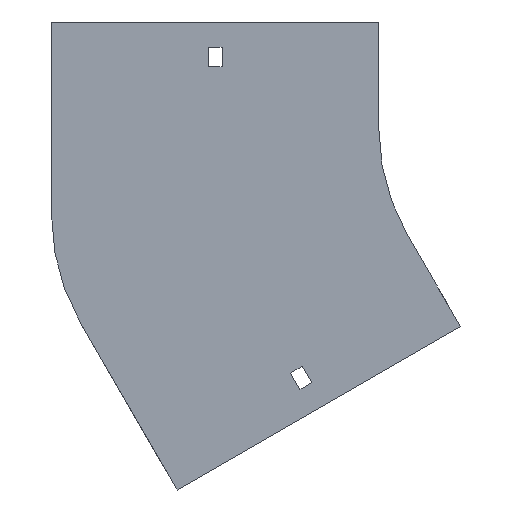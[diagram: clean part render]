
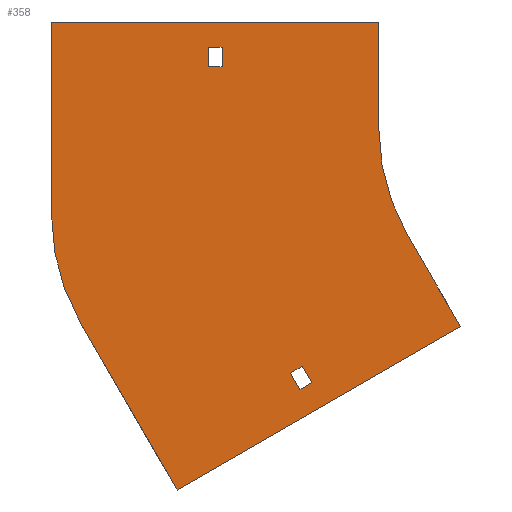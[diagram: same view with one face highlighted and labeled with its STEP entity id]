
A CAD part, front view. The second image highlights one B-rep face of the part: STEP entity #358.
In plain terms, the highlighted planar face has unit normal (0, -1, 0).
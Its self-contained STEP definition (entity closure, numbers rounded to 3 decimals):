
#4 = CARTESIAN_POINT ( 'NONE',  ( -173.75, 0., 38. ) ) ;
#8 = VERTEX_POINT ( 'NONE', #711 ) ;
#11 = VECTOR ( 'NONE', #1177, 1000. ) ;
#28 = DIRECTION ( 'NONE',  ( -0.5, 0., 0.866 ) ) ;
#64 = EDGE_LOOP ( 'NONE', ( #536, #72, #1519, #214 ) ) ;
#66 = EDGE_CURVE ( 'NONE', #8, #1122, #180, .T. ) ;
#72 = ORIENTED_EDGE ( 'NONE', *, *, #415, .F. ) ;
#73 = VERTEX_POINT ( 'NONE', #787 ) ;
#86 = EDGE_CURVE ( 'NONE', #1352, #877, #310, .T. ) ;
#174 = CARTESIAN_POINT ( 'NONE',  ( -254., 0., 50. ) ) ;
#175 = EDGE_CURVE ( 'NONE', #548, #515, #1762, .T. ) ;
#180 = LINE ( 'NONE', #1385, #1236 ) ;
#201 = AXIS2_PLACEMENT_3D ( 'NONE', #1595, #1276, #827 ) ;
#206 = VECTOR ( 'NONE', #1142, 1000. ) ;
#212 = EDGE_CURVE ( 'NONE', #1759, #1352, #540, .T. ) ;
#214 = ORIENTED_EDGE ( 'NONE', *, *, #1635, .F. ) ;
#216 = DIRECTION ( 'NONE',  ( 0., 0., 1. ) ) ;
#294 = ORIENTED_EDGE ( 'NONE', *, *, #66, .F. ) ;
#310 = LINE ( 'NONE', #492, #1832 ) ;
#328 = VECTOR ( 'NONE', #501, 1000. ) ;
#339 = DIRECTION ( 'NONE',  ( 0., 0., -1. ) ) ;
#357 = CARTESIAN_POINT ( 'NONE',  ( -180.25, 0., 29. ) ) ;
#358 = ADVANCED_FACE ( 'NONE', ( #758, #1457, #1315 ), #1782, .T. ) ;
#413 = ORIENTED_EDGE ( 'NONE', *, *, #86, .T. ) ;
#415 = EDGE_CURVE ( 'NONE', #733, #1906, #471, .T. ) ;
#419 = CARTESIAN_POINT ( 'NONE',  ( -254., 0., 50. ) ) ;
#425 = AXIS2_PLACEMENT_3D ( 'NONE', #1663, #1186, #1469 ) ;
#471 = LINE ( 'NONE', #1227, #1226 ) ;
#478 = DIRECTION ( 'NONE',  ( 0., 0., -1. ) ) ;
#492 = CARTESIAN_POINT ( 'NONE',  ( -173.75, 0., 29. ) ) ;
#498 = ORIENTED_EDGE ( 'NONE', *, *, #1868, .F. ) ;
#501 = DIRECTION ( 'NONE',  ( -0.866, 0., -0.5 ) ) ;
#515 = VERTEX_POINT ( 'NONE', #1114 ) ;
#532 = EDGE_CURVE ( 'NONE', #1780, #1851, #937, .T. ) ;
#536 = ORIENTED_EDGE ( 'NONE', *, *, #1179, .F. ) ;
#537 = CARTESIAN_POINT ( 'NONE',  ( -131.472, 0., -119.784 ) ) ;
#540 = LINE ( 'NONE', #1429, #206 ) ;
#548 = VERTEX_POINT ( 'NONE', #817 ) ;
#565 = VECTOR ( 'NONE', #216, 1000. ) ;
#580 = VERTEX_POINT ( 'NONE', #357 ) ;
#607 = AXIS2_PLACEMENT_3D ( 'NONE', #1921, #1336, #1910 ) ;
#613 = ORIENTED_EDGE ( 'NONE', *, *, #212, .T. ) ;
#614 = LINE ( 'NONE', #419, #1359 ) ;
#625 = LINE ( 'NONE', #1279, #928 ) ;
#627 = EDGE_CURVE ( 'NONE', #1029, #733, #1690, .T. ) ;
#635 = DIRECTION ( 'NONE',  ( 0.866, 0., 0.5 ) ) ;
#648 = ORIENTED_EDGE ( 'NONE', *, *, #1073, .T. ) ;
#650 = CARTESIAN_POINT ( 'NONE',  ( -141.601, 0., -115.24 ) ) ;
#683 = CARTESIAN_POINT ( 'NONE',  ( -141.601, 0., -115.24 ) ) ;
#688 = EDGE_CURVE ( 'NONE', #890, #1780, #1093, .T. ) ;
#711 = CARTESIAN_POINT ( 'NONE',  ( -100., 0., 50. ) ) ;
#731 = CARTESIAN_POINT ( 'NONE',  ( -180.25, 0., 38. ) ) ;
#733 = VERTEX_POINT ( 'NONE', #683 ) ;
#742 = VERTEX_POINT ( 'NONE', #537 ) ;
#758 = FACE_BOUND ( 'NONE', #1300, .T. ) ;
#771 = CARTESIAN_POINT ( 'NONE',  ( -135.972, 0., -111.99 ) ) ;
#781 = CARTESIAN_POINT ( 'NONE',  ( -137.101, 0., -123.034 ) ) ;
#787 = CARTESIAN_POINT ( 'NONE',  ( -194.97, 0., -170.301 ) ) ;
#805 = VECTOR ( 'NONE', #1815, 1000. ) ;
#817 = CARTESIAN_POINT ( 'NONE',  ( -86.603, 0., -50. ) ) ;
#827 = DIRECTION ( 'NONE',  ( 0., 0., 1. ) ) ;
#840 = ORIENTED_EDGE ( 'NONE', *, *, #1038, .F. ) ;
#849 = DIRECTION ( 'NONE',  ( -0.5, 0., 0.866 ) ) ;
#877 = VERTEX_POINT ( 'NONE', #944 ) ;
#890 = VERTEX_POINT ( 'NONE', #1695 ) ;
#905 = CARTESIAN_POINT ( 'NONE',  ( -254., 0., -41.264 ) ) ;
#928 = VECTOR ( 'NONE', #28, 1000. ) ;
#933 = CARTESIAN_POINT ( 'NONE',  ( -137.101, 0., -123.034 ) ) ;
#937 = LINE ( 'NONE', #1402, #565 ) ;
#944 = CARTESIAN_POINT ( 'NONE',  ( -173.75, 0., 29. ) ) ;
#1020 = CARTESIAN_POINT ( 'NONE',  ( -135.972, 0., -111.99 ) ) ;
#1029 = VERTEX_POINT ( 'NONE', #771 ) ;
#1035 = LINE ( 'NONE', #1471, #1675 ) ;
#1038 = EDGE_CURVE ( 'NONE', #515, #73, #1502, .T. ) ;
#1060 = VECTOR ( 'NONE', #635, 1000. ) ;
#1073 = EDGE_CURVE ( 'NONE', #580, #1759, #1035, .T. ) ;
#1079 = EDGE_CURVE ( 'NONE', #1851, #8, #614, .T. ) ;
#1093 = CIRCLE ( 'NONE', #201, 100. ) ;
#1098 = LINE ( 'NONE', #781, #1060 ) ;
#1109 = ORIENTED_EDGE ( 'NONE', *, *, #532, .F. ) ;
#1114 = CARTESIAN_POINT ( 'NONE',  ( -61.603, 0., -93.301 ) ) ;
#1122 = VERTEX_POINT ( 'NONE', #1805 ) ;
#1142 = DIRECTION ( 'NONE',  ( 1., 0., 0. ) ) ;
#1177 = DIRECTION ( 'NONE',  ( -0.866, 0., -0.5 ) ) ;
#1179 = EDGE_CURVE ( 'NONE', #1906, #742, #1098, .T. ) ;
#1186 = DIRECTION ( 'NONE',  ( 0., -1., 0. ) ) ;
#1204 = DIRECTION ( 'NONE',  ( 0.5, 0., -0.866 ) ) ;
#1226 = VECTOR ( 'NONE', #1204, 1000. ) ;
#1227 = CARTESIAN_POINT ( 'NONE',  ( -141.601, 0., -115.24 ) ) ;
#1228 = CARTESIAN_POINT ( 'NONE',  ( -180.25, 0., 29. ) ) ;
#1236 = VECTOR ( 'NONE', #339, 1000. ) ;
#1243 = EDGE_CURVE ( 'NONE', #877, #580, #1492, .T. ) ;
#1276 = DIRECTION ( 'NONE',  ( 0., 1., 0. ) ) ;
#1279 = CARTESIAN_POINT ( 'NONE',  ( -194.97, 0., -170.301 ) ) ;
#1300 = EDGE_LOOP ( 'NONE', ( #648, #613, #413, #1882 ) ) ;
#1306 = DIRECTION ( 'NONE',  ( 0.5, 0., -0.866 ) ) ;
#1314 = EDGE_CURVE ( 'NONE', #1122, #548, #1707, .T. ) ;
#1315 = FACE_BOUND ( 'NONE', #64, .T. ) ;
#1336 = DIRECTION ( 'NONE',  ( 0., -1., 0. ) ) ;
#1342 = ORIENTED_EDGE ( 'NONE', *, *, #1079, .F. ) ;
#1350 = DIRECTION ( 'NONE',  ( 1., 0., 0. ) ) ;
#1352 = VERTEX_POINT ( 'NONE', #4 ) ;
#1358 = CARTESIAN_POINT ( 'NONE',  ( -61.603, 0., -93.301 ) ) ;
#1359 = VECTOR ( 'NONE', #1350, 1000. ) ;
#1363 = EDGE_LOOP ( 'NONE', ( #1342, #1109, #1604, #498, #840, #1568, #1549, #294 ) ) ;
#1385 = CARTESIAN_POINT ( 'NONE',  ( -100., 0., 50. ) ) ;
#1402 = CARTESIAN_POINT ( 'NONE',  ( -254., 0., -41.264 ) ) ;
#1429 = CARTESIAN_POINT ( 'NONE',  ( -180.25, 0., 38. ) ) ;
#1457 = FACE_OUTER_BOUND ( 'NONE', #1363, .T. ) ;
#1469 = DIRECTION ( 'NONE',  ( 0., 0., -1. ) ) ;
#1471 = CARTESIAN_POINT ( 'NONE',  ( -180.25, 0., 29. ) ) ;
#1492 = LINE ( 'NONE', #1228, #805 ) ;
#1502 = LINE ( 'NONE', #1358, #11 ) ;
#1519 = ORIENTED_EDGE ( 'NONE', *, *, #627, .F. ) ;
#1549 = ORIENTED_EDGE ( 'NONE', *, *, #1314, .F. ) ;
#1554 = CARTESIAN_POINT ( 'NONE',  ( -86.603, 0., -50. ) ) ;
#1568 = ORIENTED_EDGE ( 'NONE', *, *, #175, .F. ) ;
#1595 = CARTESIAN_POINT ( 'NONE',  ( -154., 0., -41.264 ) ) ;
#1604 = ORIENTED_EDGE ( 'NONE', *, *, #688, .F. ) ;
#1635 = EDGE_CURVE ( 'NONE', #742, #1029, #1740, .T. ) ;
#1653 = DIRECTION ( 'NONE',  ( 0., 0., 1. ) ) ;
#1663 = CARTESIAN_POINT ( 'NONE',  ( 0., 0., 0. ) ) ;
#1675 = VECTOR ( 'NONE', #1653, 1000. ) ;
#1690 = LINE ( 'NONE', #650, #328 ) ;
#1695 = CARTESIAN_POINT ( 'NONE',  ( -240.603, 0., -91.264 ) ) ;
#1707 = CIRCLE ( 'NONE', #425, 100. ) ;
#1740 = LINE ( 'NONE', #1020, #1845 ) ;
#1759 = VERTEX_POINT ( 'NONE', #731 ) ;
#1762 = LINE ( 'NONE', #1554, #1893 ) ;
#1780 = VERTEX_POINT ( 'NONE', #905 ) ;
#1782 = PLANE ( 'NONE',  #607 ) ;
#1805 = CARTESIAN_POINT ( 'NONE',  ( -100., 0., 0. ) ) ;
#1815 = DIRECTION ( 'NONE',  ( -1., 0., 0. ) ) ;
#1832 = VECTOR ( 'NONE', #478, 1000. ) ;
#1845 = VECTOR ( 'NONE', #849, 1000. ) ;
#1851 = VERTEX_POINT ( 'NONE', #174 ) ;
#1868 = EDGE_CURVE ( 'NONE', #73, #890, #625, .T. ) ;
#1882 = ORIENTED_EDGE ( 'NONE', *, *, #1243, .T. ) ;
#1893 = VECTOR ( 'NONE', #1306, 1000. ) ;
#1906 = VERTEX_POINT ( 'NONE', #933 ) ;
#1910 = DIRECTION ( 'NONE',  ( 0., 0., -1. ) ) ;
#1921 = CARTESIAN_POINT ( 'NONE',  ( 0., 0., 0. ) ) ;
